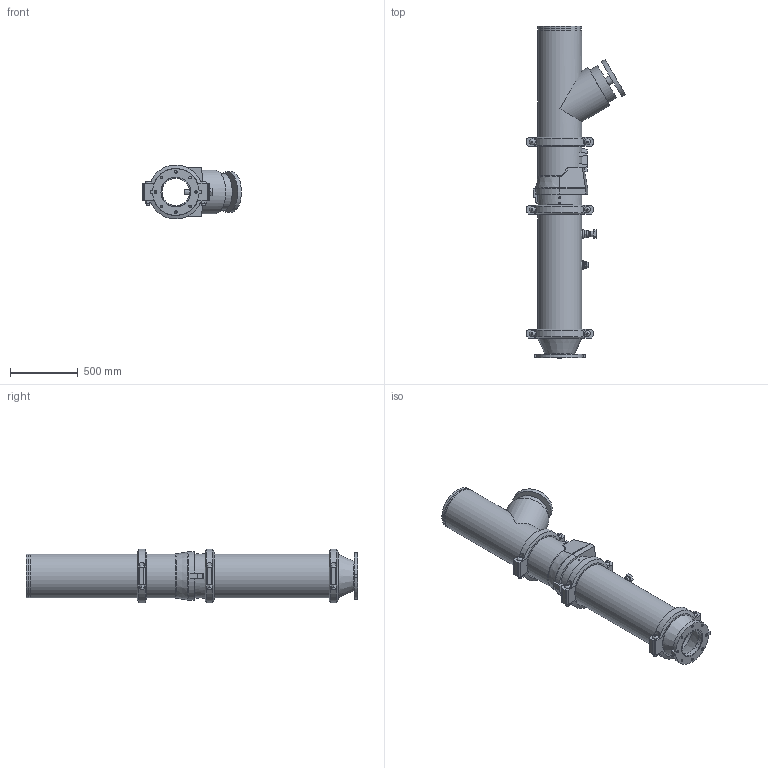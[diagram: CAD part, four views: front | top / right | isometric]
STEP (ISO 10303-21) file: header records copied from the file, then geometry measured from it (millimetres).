
FILE_DESCRIPTION(/* description */ ('VIC DVI PUMP DROP VERT S/383 (OGSxFLG) (S/924-1.25)','CAx-IF Rec.Pracs.---Representation and Presentation of Product Manufacturing Information (PMI)---4.0---2014-10-13'),/* implementation_level */ '2;1');
FILE_NAME(/* name */ 'C:\Users\Public\Documents\Victaulic.Temp\A849\Victaulic_IPS_Vertical DVI_CL 150_Series 383 (OGSxFLG)_924 (1.25)_12.0x08.0 (300x200).stp',/* time_stamp */ '2022-07-25T11:42:36+02:00',/* author */ ('Vjadhav'),/* organization */ ('Victaulic'),/* preprocessor_version */ 'ST-DEVELOPER v18',/* originating_system */ 'Autodesk Inventor 2020',/* authorisation */ '');
FILE_SCHEMA (('AP242_MANAGED_MODEL_BASED_3D_ENGINEERING_MIM_LF { 1 0 10303 442 1 1 4 }'));
Length unit declared in the file: inch
Products named in the file (9): 383_924 (1.25)-12.0x08.0; 741-08.0; 050-12.0x08.0; Pipe-12.0; 789-12.0; 779-12.0; 924-10.0x01.25; 923-10.0x0.75; 077-12.0
Assembly tree (10 placements, depth 2):
  383_924 (1.25)-12.0x08.0
    741-08.0
    050-12.0x08.0
    Pipe-12.0
    789-12.0
    779-12.0
    924-10.0x01.25
    923-10.0x0.75
    077-12.0  x3
Bounding box: 727.08 x 2443.23 x 397 mm (x, y, z)
Volume: 61567283.7 mm3; surface area: 6629850.5 mm2
Topology: 10 solids, 17 shells, 454 faces, 1128 edges, 773 vertices
Faces by surface type: plane 273, cylinder 148, cone 19, bspline 8, torus 6
Full cylindrical faces by diameter (mm): 13.716 x4, 19.05 x8, 21.336 x2, 25.4 x12, 26.67 x2, 27.432 x6, 38.608 x1, 42.164 x1, 45.974 x4, 48.514 x1, 55.626 x2, 60.96 x1, 76.2 x1, 202.717 x1, 214.401 x1, 219.075 x3, 273.05 x1, 299.974 x1, 303.225 x2, 304.8 x2, 314.96 x3, 318.287 x7, 323.85 x19
Entity records: 11304 total; most frequent: CARTESIAN_POINT 2172, DIRECTION 1870, ORIENTED_EDGE 1676, EDGE_CURVE 838, AXIS2_PLACEMENT_3D 715, VERTEX_POINT 577, LINE 440, VECTOR 440
